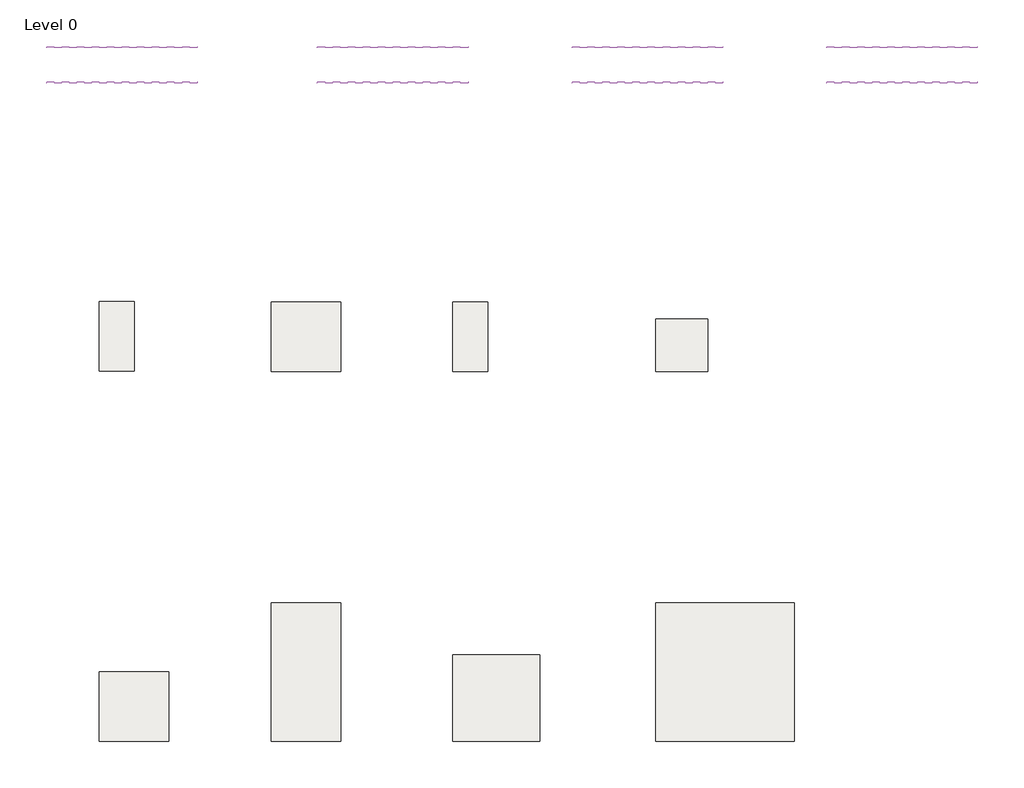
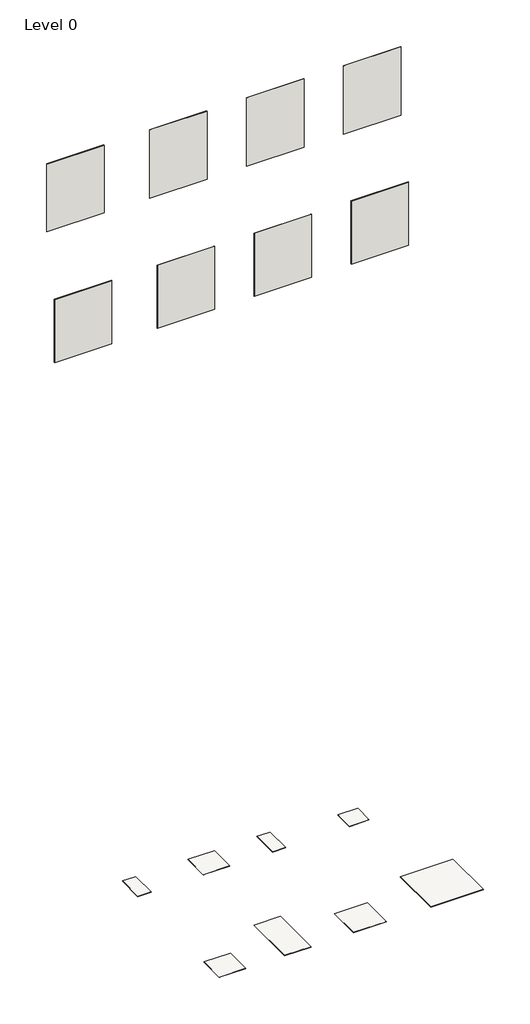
# One storey: 8 slabs, 8 walls.
"""IFC4 building model written with IfcOpenShell, lengths in millimetres."""

import ifcopenshell
import ifcopenshell.guid

model = None  # the IFC model being written
_history = None  # IfcOwnerHistory: only IFC2X3 demands one
_inside = {}  # id of a spatial element -> (the spatial element, [elements in it])
_under = {}  # id of a project, library or spatial element -> (it, [spatial elements below it])
_declared = {}  # id of a project -> (the project, [libraries it declares])
_typed = {}  # id of a type object -> (the type object, [elements of that type])
_made_of = {}  # id of a material, layer set ... -> (it, [elements and type objects made of it])


def new_model(schema):
    """Start an empty IFC model of exactly this schema.

    Asked for "IFC4X3", IfcOpenShell would pick the latest addendum, in which some entities
    have other attributes; the version numbers below select the first issue.
    IFC2X3 requires an IfcOwnerHistory on every rooted entity: one is made here for all.
    """
    global model, _history
    if schema == "IFC4X3":
        model = ifcopenshell.file(schema_version=(4, 3, 0, 0))
    else:
        model = ifcopenshell.file(schema=schema)
    _inside.clear()
    _under.clear()
    _declared.clear()
    _typed.clear()
    _made_of.clear()
    _history = None
    if model.schema == "IFC2X3":
        org = make("IfcOrganization", Name="unknown")
        user = make(
            "IfcPersonAndOrganization",
            ThePerson=make("IfcPerson", FamilyName="unknown"),
            TheOrganization=org,
        )
        app = make(
            "IfcApplication",
            ApplicationDeveloper=org,
            Version="unknown",
            ApplicationFullName="unknown",
            ApplicationIdentifier="unknown",
        )
        _history = make(
            "IfcOwnerHistory",
            OwningUser=user,
            OwningApplication=app,
            ChangeAction="ADDED",
            CreationDate=0,
        )
    return model


def make(cls, **values):
    """One entity of the class cls with the attributes given. An attribute that is None is left unset."""
    return model.create_entity(
        cls, **{name: value for name, value in values.items() if value is not None}
    )


def rooted(cls, **values):
    """An entity with a GlobalId (a new one), such as an element, a storey or a relation."""
    return make(cls, GlobalId=ifcopenshell.guid.new(), OwnerHistory=_history, **values)


def si_unit(unit_type, name, prefix=None):
    """IfcSIUnit, for example si_unit("LENGTHUNIT", "METRE", prefix="MILLI")."""
    return make("IfcSIUnit", UnitType=unit_type, Prefix=prefix, Name=name)


def assignment(units):
    """IfcUnitAssignment: the units of a project."""
    return None if units is None else make("IfcUnitAssignment", Units=units)


def point(xyz):
    """IfcCartesianPoint."""
    return None if xyz is None else make("IfcCartesianPoint", Coordinates=xyz)


def direction(xyz):
    """IfcDirection."""
    return None if xyz is None else make("IfcDirection", DirectionRatios=xyz)


def frame(location, z_axis=None, x_axis=None):
    """IfcAxis2Placement3D, a coordinate frame: its origin and axes. An axis left out is left unset."""
    return make(
        "IfcAxis2Placement3D",
        Location=point(location),
        Axis=direction(z_axis),
        RefDirection=direction(x_axis),
    )


def origin():
    """The frame at (0, 0, 0) with its axes left unset."""
    return frame((0.0, 0.0, 0.0))


def place(relative_to, where):
    """IfcLocalPlacement: puts the frame where relative to a parent placement (None: the world)."""
    return make(
        "IfcLocalPlacement", PlacementRelTo=relative_to, RelativePlacement=where
    )


def context(
    kind, dimensions, precision=None, world=None, true_north=None, identifier=None
):
    """IfcGeometricRepresentationContext, for example the 3D "Model" context."""
    return make(
        "IfcGeometricRepresentationContext",
        ContextIdentifier=identifier,
        ContextType=kind,
        CoordinateSpaceDimension=dimensions,
        Precision=precision,
        WorldCoordinateSystem=world,
        TrueNorth=true_north,
    )


def project(units=None, contexts=None):
    """IfcProject with its units and contexts."""
    return rooted(
        "IfcProject",
        Name="project",
        RepresentationContexts=contexts,
        UnitsInContext=assignment(units),
    )


def spatial(cls, under=None, at=None, **own):
    """A site, building, storey or space (cls), placed at a placement, below another one or the project."""
    s = rooted(cls, ObjectPlacement=at, **own)
    if under is not None:
        _under.setdefault(under.id(), (under, []))[1].append(s)
    return s


def polyline(points):
    """IfcPolyline through the points."""
    return make("IfcPolyline", Points=[point(p) for p in points])


def outline(outer, holes=None, kind="AREA"):
    """IfcArbitraryClosedProfileDef: a profile drawn as a closed curve; with holes, ...WithVoids."""
    if holes is None:
        return make("IfcArbitraryClosedProfileDef", ProfileType=kind, OuterCurve=outer)
    return make(
        "IfcArbitraryProfileDefWithVoids",
        ProfileType=kind,
        OuterCurve=outer,
        InnerCurves=holes,
    )


def extrude(swept, where, along, depth):
    """IfcExtrudedAreaSolid: the profile swept, set in the frame where, extruded along a direction by depth."""
    return make(
        "IfcExtrudedAreaSolid",
        SweptArea=swept,
        Position=where,
        ExtrudedDirection=direction(along),
        Depth=depth,
    )


def shape(context_of_items, identifier, shape_type, items):
    """IfcShapeRepresentation: the items that make up one representation, for example the "Body"."""
    return make(
        "IfcShapeRepresentation",
        ContextOfItems=context_of_items,
        RepresentationIdentifier=identifier,
        RepresentationType=shape_type,
        Items=items,
    )


def made_of(thing, what):
    """Note that an element or type object is made of a material, layer set ...; save() writes the relation."""
    if what is not None:
        _made_of.setdefault(what.id(), (what, []))[1].append(thing)
    return thing


def element(
    cls,
    number,
    at=None,
    inside=None,
    cuts=None,
    type_object=None,
    material=None,
    context=None,
    identifier="Body",
    shape_type=None,
    held_by="IfcProductDefinitionShape",
    body=None,
    shapes=None,
    **own,
):
    """One element of the class cls, such as IfcWall. Its Tag is "e" and its number.

    at: its placement. inside: the storey or other place that contains it. cuts: it is an
    opening in that element (IfcRelVoidsElement). A single representation is given by context,
    identifier, shape_type and body (its items); several are given by shapes. held_by: the class
    of the entity that holds the representations. save() writes the other relations.
    """
    e = rooted(cls, Tag="e%d" % number, ObjectPlacement=at, **own)
    if body is not None:
        shapes = [shape(context, identifier, shape_type, body)]
    if shapes is not None:
        e.Representation = make(held_by, Representations=shapes)
    if inside is not None:
        _inside.setdefault(inside.id(), (inside, []))[1].append(e)
    if cuts is not None:
        rooted(
            "IfcRelVoidsElement", RelatingBuildingElement=cuts, RelatedOpeningElement=e
        )
    if type_object is not None:
        _typed.setdefault(type_object.id(), (type_object, []))[1].append(e)
    return made_of(e, material)


def aggregate(whole, parts):
    """IfcRelAggregates: a whole, such as a stair, and the parts it consists of."""
    return rooted("IfcRelAggregates", RelatingObject=whole, RelatedObjects=parts)


def save(model, path):
    """Write the relations noted so far, then the file.

    IfcRelAggregates (storeys below a building ...), IfcRelContainedInSpatialStructure (elements
    in a storey), IfcRelDefinesByType, IfcRelAssociatesMaterial and IfcRelDeclares: one each for
    every whole, place, type object, material and project.
    """
    for whole, parts in _under.values():
        aggregate(whole, parts)
    for where, things in _inside.values():
        rooted(
            "IfcRelContainedInSpatialStructure",
            RelatedElements=things,
            RelatingStructure=where,
        )
    for kind, things in _typed.values():
        rooted("IfcRelDefinesByType", RelatedObjects=things, RelatingType=kind)
    for what, things in _made_of.values():
        rooted("IfcRelAssociatesMaterial", RelatedObjects=things, RelatingMaterial=what)
    for by, libraries in _declared.values():
        rooted("IfcRelDeclares", RelatingContext=by, RelatedDefinitions=libraries)
    model.write(path)


model = new_model("IFC4")

# Units and contexts
model_context = context("Model", 3, world=origin())
ifc_project = project(units=[si_unit("LENGTHUNIT", "METRE", prefix="MILLI")], contexts=[model_context])

# Site, building, storey
site = spatial("IfcSite", under=ifc_project)
building = spatial("IfcBuilding", under=site)
storey = spatial("IfcBuildingStorey", under=building, Name="Level 0", Elevation=0.0)

# Slabs
placement = place(None, origin())
element("IfcSlab", 1, ObjectType="Floor_Tiles_Refin-Creos-Mud-30x60 ND05", at=placement, inside=storey, context=model_context, shape_type="SweptSolid", body=[
    extrude(outline(polyline([(6674.3752062, 5939.4623743), (6674.3752062, 5339.4623743), (6374.3752062, 5339.4623743), (6374.3752062, 5939.4623743), (6674.3752062, 5939.4623743)])), frame((0.0, 0.0, -10.0), z_axis=(0.0, 0.0, 1.0), x_axis=(1.0, 0.0, 0.0)), (0.0, 0.0, 1.0), 10.0),
])
element("IfcSlab", 2, ObjectType="Floor_Tiles_Refin-Creos-Mud-60x60 NA56", at=placement, inside=storey, context=model_context, shape_type="SweptSolid", body=[
    extrude(outline(polyline([(8457.3924055, 5938.4192064), (8457.3924055, 5338.4192064), (7857.3924055, 5338.4192064), (7857.3924055, 5938.4192064), (8457.3924055, 5938.4192064)])), frame((0.0, 0.0, -10.0), z_axis=(0.0, 0.0, 1.0), x_axis=(1.0, 0.0, 0.0)), (0.0, 0.0, 1.0), 10.0),
])
element("IfcSlab", 3, ObjectType="Floor_Tiles_Refin-Creos-Mud-Soft-30x60 ND06", at=placement, inside=storey, context=model_context, shape_type="SweptSolid", body=[
    extrude(outline(polyline([(9727.1861419, 5938.4192064), (9727.1861419, 5338.4192064), (9427.1861419, 5338.4192064), (9427.1861419, 5938.4192064), (9727.1861419, 5938.4192064)])), frame((0.0, 0.0, -10.0), z_axis=(0.0, 0.0, 1.0), x_axis=(1.0, 0.0, 0.0)), (0.0, 0.0, 1.0), 10.0),
])
element("IfcSlab", 4, ObjectType="Floor_Tiles_Refin-Creos-Mud-Soft-60x60 NA57", at=placement, inside=storey, context=model_context, shape_type="SweptSolid", body=[
    extrude(outline(polyline([(6974.3752062, 2739.4623743), (6974.3752062, 2139.4623743), (6374.3752062, 2139.4623743), (6374.3752062, 2739.4623743), (6974.3752062, 2739.4623743)])), frame((0.0, 0.0, -10.0), z_axis=(0.0, 0.0, 1.0), x_axis=(1.0, 0.0, 0.0)), (0.0, 0.0, 1.0), 10.0),
])
element("IfcSlab", 5, ObjectType="Floor_Tiles_Refin-Creos-Mud-Soft-75x75 NU54", at=placement, inside=storey, context=model_context, shape_type="SweptSolid", body=[
    extrude(outline(polyline([(10177.1861419, 2889.4623743), (10177.1861419, 2139.4623743), (9427.1861419, 2139.4623743), (9427.1861419, 2889.4623743), (10177.1861419, 2889.4623743)])), frame((0.0, 0.0, -10.0), z_axis=(0.0, 0.0, 1.0), x_axis=(1.0, 0.0, 0.0)), (0.0, 0.0, 1.0), 10.0),
])
element("IfcSlab", 6, ObjectType="Floor_Tiles_Refin-Creos-Mud-Soft-45x45 ND70", at=placement, inside=storey, context=model_context, shape_type="SweptSolid", body=[
    extrude(outline(polyline([(11627.1861419, 5788.4192064), (11627.1861419, 5338.4192064), (11177.1861419, 5338.4192064), (11177.1861419, 5788.4192064), (11627.1861419, 5788.4192064)])), frame((0.0, 0.0, -10.5), z_axis=(0.0, 0.0, 1.0), x_axis=(1.0, 0.0, 0.0)), (0.0, 0.0, 1.0), 10.5),
])
element("IfcSlab", 7, ObjectType="Floor_Tiles_Refin-Creos-Mud-Soft-60x120 NA68", at=placement, inside=storey, context=model_context, shape_type="SweptSolid", body=[
    extrude(outline(polyline([(8457.3924055, 3339.4623743), (8457.3924055, 2139.4623743), (7857.3924055, 2139.4623743), (7857.3924055, 3339.4623743), (8457.3924055, 3339.4623743)])), frame((0.0, 0.0, -10.0), z_axis=(0.0, 0.0, 1.0), x_axis=(1.0, 0.0, 0.0)), (0.0, 0.0, 1.0), 10.0),
])
element("IfcSlab", 8, ObjectType="Floor_Tiles_Refin-Creos-Mud-Soft-120x120 MK26", at=placement, inside=storey, context=model_context, shape_type="SweptSolid", body=[
    extrude(outline(polyline([(12377.1861419, 3339.4623743), (12377.1861419, 2139.4623743), (11177.1861419, 2139.4623743), (11177.1861419, 3339.4623743), (12377.1861419, 3339.4623743)])), frame((0.0, 0.0, -10.0), z_axis=(0.0, 0.0, 1.0), x_axis=(1.0, 0.0, 0.0)), (0.0, 0.0, 1.0), 10.0),
])

# Walls
element("IfcWall", 9, ObjectType="Wall_Tiles_Refin-Creos-Mud-60x60 NA56", at=placement, inside=storey, context=model_context, shape_type="SweptSolid", body=[
    extrude(outline(polyline([(9557.3752062, 8132.3838631), (8257.3752062, 8132.3838631), (8257.3752062, 8142.3838631), (9557.3752062, 8142.3838631), (9557.3752062, 8132.3838631)])), frame((0.0, 0.0, 14387.6770443), z_axis=(0.0, 0.0, 1.0), x_axis=(1.0, 0.0, 0.0)), (0.0, 0.0, 1.0), 1641.7417352),
])
element("IfcWall", 10, ObjectType="Wall_Tiles_Refin-Creos-Mud-Soft-30x60 ND06", at=placement, inside=storey, context=model_context, shape_type="SweptSolid", body=[
    extrude(outline(polyline([(11757.3752062, 8132.3838631), (10457.3752062, 8132.3838631), (10457.3752062, 8142.3838631), (11757.3752062, 8142.3838631), (11757.3752062, 8132.3838631)])), frame((0.0, 0.0, 14387.6770443), z_axis=(0.0, 0.0, 1.0), x_axis=(1.0, 0.0, 0.0)), (0.0, 0.0, 1.0), 1641.7417352),
])
element("IfcWall", 11, ObjectType="Wall_Tiles_Refin-Creos-Mud-30x60 ND05", at=placement, inside=storey, context=model_context, shape_type="SweptSolid", body=[
    extrude(outline(polyline([(7217.3752062, 8132.3838631), (5917.3752062, 8132.3838631), (5917.3752062, 8142.3838631), (7217.3752062, 8142.3838631), (7217.3752062, 8132.3838631)])), frame((0.0, 0.0, 14403.7267346), z_axis=(0.0, 0.0, 1.0), x_axis=(1.0, 0.0, 0.0)), (0.0, 0.0, 1.0), 1625.692045),
])
element("IfcWall", 12, ObjectType="Wall_Tiles_Refin-Creos-Mud-Soft-60x60 NA57", at=placement, inside=storey, context=model_context, shape_type="SweptSolid", body=[
    extrude(outline(polyline([(7217.3752062, 7827.3838631), (5917.3752062, 7827.3838631), (5917.3752062, 7837.3838631), (7217.3752062, 7837.3838631), (7217.3752062, 7827.3838631)])), frame((0.0, 0.0, 11452.5436262), z_axis=(0.0, 0.0, 1.0), x_axis=(1.0, 0.0, 0.0)), (0.0, 0.0, 1.0), 1513.1985566),
])
element("IfcWall", 13, ObjectType="Wall_Tiles_Refin-Creos-Mud-Soft-60x120 NA68", at=placement, inside=storey, context=model_context, shape_type="SweptSolid", body=[
    extrude(outline(polyline([(9557.3752062, 7827.3838631), (8257.3752062, 7827.3838631), (8257.3752062, 7837.3838631), (9557.3752062, 7837.3838631), (9557.3752062, 7827.3838631)])), frame((0.0, 0.0, 11452.5436262), z_axis=(0.0, 0.0, 1.0), x_axis=(1.0, 0.0, 0.0)), (0.0, 0.0, 1.0), 1513.1985566),
])
element("IfcWall", 14, ObjectType="Wall_Tiles_Refin-Creos-Mud-Soft-75x75 NU54", at=placement, inside=storey, context=model_context, shape_type="SweptSolid", body=[
    extrude(outline(polyline([(11757.3752062, 7827.3838631), (10457.3752062, 7827.3838631), (10457.3752062, 7837.3838631), (11757.3752062, 7837.3838631), (11757.3752062, 7827.3838631)])), frame((0.0, 0.0, 11452.5436262), z_axis=(0.0, 0.0, 1.0), x_axis=(1.0, 0.0, 0.0)), (0.0, 0.0, 1.0), 1513.1985566),
])
element("IfcWall", 15, ObjectType="Wall_Tiles_Refin-Creos-Mud-Soft-45x45 ND70", at=placement, inside=storey, context=model_context, shape_type="SweptSolid", body=[
    extrude(outline(polyline([(13957.3752062, 8132.1338631), (12657.3752062, 8132.1338631), (12657.3752062, 8142.6338631), (13957.3752062, 8142.6338631), (13957.3752062, 8132.1338631)])), frame((0.0, 0.0, 14387.6770443), z_axis=(0.0, 0.0, 1.0), x_axis=(1.0, 0.0, 0.0)), (0.0, 0.0, 1.0), 1641.7417352),
])
element("IfcWall", 16, ObjectType="Wall_Tiles_Refin-Creos-Mud-Soft-120x120 MK26", at=placement, inside=storey, context=model_context, shape_type="SweptSolid", body=[
    extrude(outline(polyline([(13957.3752062, 7827.3838631), (12657.3752062, 7827.3838631), (12657.3752062, 7837.3838631), (13957.3752062, 7837.3838631), (13957.3752062, 7827.3838631)])), frame((0.0, 0.0, 11452.5436262), z_axis=(0.0, 0.0, 1.0), x_axis=(1.0, 0.0, 0.0)), (0.0, 0.0, 1.0), 1513.1985566),
])

save(model, "model.ifc")
